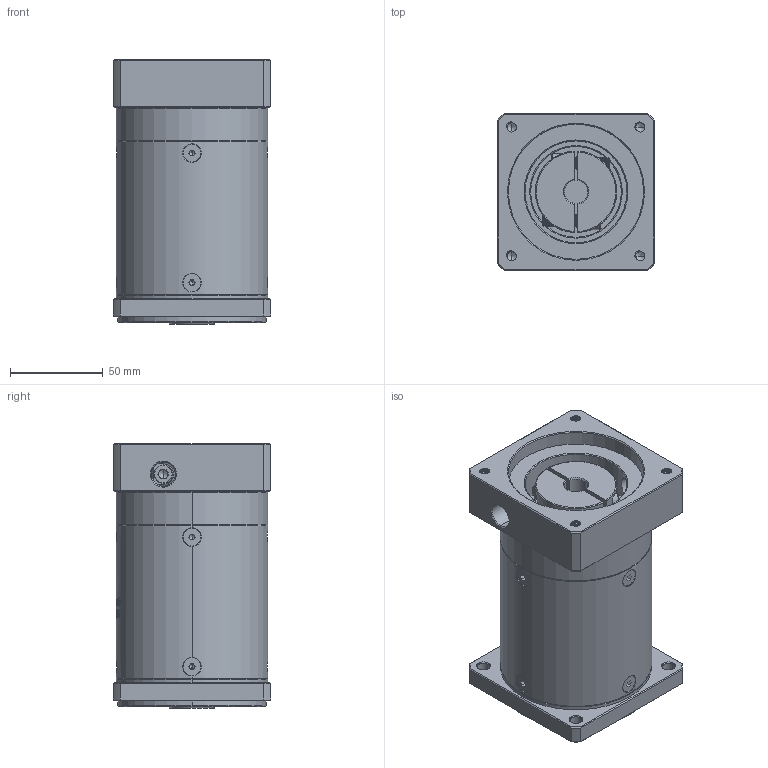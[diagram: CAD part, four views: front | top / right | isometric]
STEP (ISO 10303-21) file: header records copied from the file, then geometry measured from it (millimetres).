
FILE_DESCRIPTION (( 'STEP AP214' ), '1' );
FILE_NAME ('ZF080-K15-L3-P2-12.7-73-69.6X69.6-M6.step', '2023-08-19T05:36:32', ( '' ), ( '' ), 'SwSTEP 2.0', 'SolidWorks 2016', '' );
FILE_SCHEMA (( 'AUTOMOTIVE_DESIGN' ));
Length unit declared in the file: millimetre
Products named in the file (1): ZF080-K15-L3-P2-12.7-73-69.6X69.6-M6
Bounding box: 85 x 85 x 143 mm (x, y, z)
Volume: 733287 mm3; surface area: 98004 mm2
Topology: 13 solids, 13 shells, 2209 faces, 5798 edges, 3687 vertices
Faces by surface type: plane 1066, bspline 390, cylinder 384, cone 334, torus 35
Entity records: 117347 total; most frequent: CARTESIAN_POINT 43616, ORIENTED_EDGE 11540, DIRECTION 8539, EDGE_CURVE 5770, VERTEX_POINT 3687, VECTOR 3077, LINE 3077, AXIS2_PLACEMENT_3D 2731
